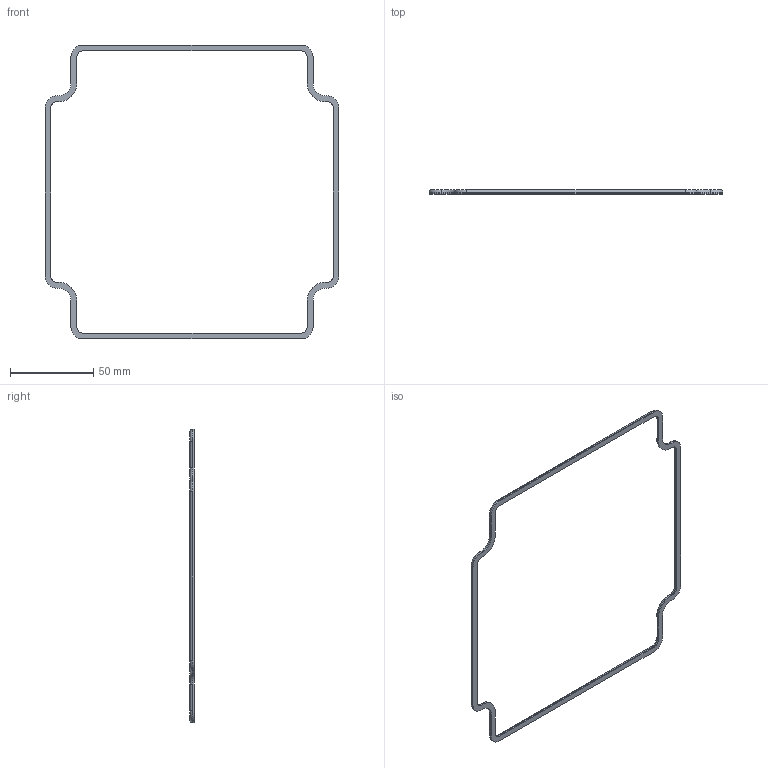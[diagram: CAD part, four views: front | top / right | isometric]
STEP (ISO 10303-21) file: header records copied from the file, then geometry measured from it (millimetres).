
FILE_DESCRIPTION(/* description */ (''),/* implementation_level */ '2;1');
FILE_NAME(/* name */ '1590Z180 gasket.stp',/* time_stamp */ '2024-09-12T07:24:15-04:00',/* author */ ('mbeerman'),/* organization */ (''),/* preprocessor_version */ 'ST-DEVELOPER v20',/* originating_system */ 'Autodesk Inventor 2024',/* authorisation */ '');
FILE_SCHEMA (('AUTOMOTIVE_DESIGN { 1 0 10303 214 3 1 1 }'));
Length unit declared in the file: millimetre
Products named in the file (1): 1590Z180 gasket
Bounding box: 176.5 x 2.53 x 176.45 mm (x, y, z)
Volume: 4959.8 mm3; surface area: 6944.4 mm2
Topology: 1 solids, 1 shells, 61 faces, 140 edges, 80 vertices
Faces by surface type: cylinder 32, plane 17, torus 12
Entity records: 1749 total; most frequent: DIRECTION 332, CARTESIAN_POINT 282, ORIENTED_EDGE 280, EDGE_CURVE 140, AXIS2_PLACEMENT_3D 130, VERTEX_POINT 80, LINE 72, VECTOR 72
